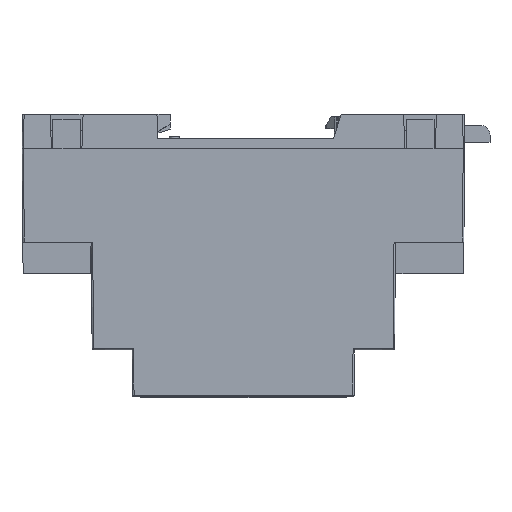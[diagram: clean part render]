
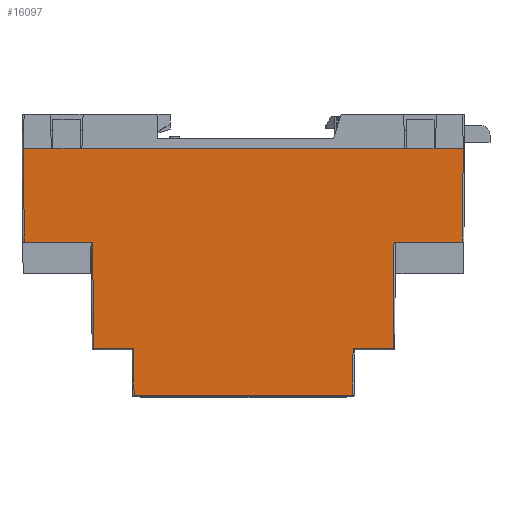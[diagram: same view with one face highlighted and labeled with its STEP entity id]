
A CAD part, front view. The second image highlights one B-rep face of the part: STEP entity #16097.
In plain terms, the highlighted planar face has unit normal (0, -1, -0.009) as drawn and (0, 1, -0.009) by its records, which use the part's own axes.
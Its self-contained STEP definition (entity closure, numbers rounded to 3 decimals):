
#16097=ADVANCED_FACE('',(#34640),#34642,.F.);
#34640=FACE_BOUND('',#34641,.T.);
#34641=EDGE_LOOP('',(#54096,#54097,#54098,#54099,#54100,#54101,#54102,#54103,#54104,
#54105,#54106,#54107,#54108,#54109,#54110,#54111));
#34642=PLANE('',#34643);
#34643=AXIS2_PLACEMENT_3D('',#34644,#34645,#34646);
#34644=CARTESIAN_POINT('',(-29595.512,-26736.9,-47.706));
#34645=DIRECTION('',(0.,-1.,0.009));
#34646=DIRECTION('',(0.,-0.009,-1.));
#54096=ORIENTED_EDGE('',*,*,#63273,.F.);
#54097=ORIENTED_EDGE('',*,*,#63274,.F.);
#54098=ORIENTED_EDGE('',*,*,#63275,.F.);
#54099=ORIENTED_EDGE('',*,*,#63276,.F.);
#54100=ORIENTED_EDGE('',*,*,#63277,.F.);
#54101=ORIENTED_EDGE('',*,*,#63278,.F.);
#54102=ORIENTED_EDGE('',*,*,#63279,.F.);
#54103=ORIENTED_EDGE('',*,*,#63280,.F.);
#54104=ORIENTED_EDGE('',*,*,#63281,.F.);
#54105=ORIENTED_EDGE('',*,*,#63282,.F.);
#54106=ORIENTED_EDGE('',*,*,#63283,.F.);
#54107=ORIENTED_EDGE('',*,*,#63284,.F.);
#54108=ORIENTED_EDGE('',*,*,#63285,.F.);
#54109=ORIENTED_EDGE('',*,*,#63286,.F.);
#54110=ORIENTED_EDGE('',*,*,#63287,.F.);
#54111=ORIENTED_EDGE('',*,*,#63288,.F.);
#63273=EDGE_CURVE('',#73462,#73463,#73464,.T.);
#63274=EDGE_CURVE('',#73465,#73462,#73466,.T.);
#63275=EDGE_CURVE('',#73467,#73465,#73468,.T.);
#63276=EDGE_CURVE('',#73469,#73467,#73470,.T.);
#63277=EDGE_CURVE('',#73471,#73469,#73472,.T.);
#63278=EDGE_CURVE('',#73473,#73471,#73474,.T.);
#63279=EDGE_CURVE('',#73475,#73473,#73476,.T.);
#63280=EDGE_CURVE('',#73477,#73475,#73478,.T.);
#63281=EDGE_CURVE('',#73479,#73477,#73480,.T.);
#63282=EDGE_CURVE('',#73481,#73479,#73482,.T.);
#63283=EDGE_CURVE('',#73483,#73481,#73484,.T.);
#63284=EDGE_CURVE('',#73485,#73483,#73486,.T.);
#63285=EDGE_CURVE('',#73487,#73485,#73488,.T.);
#63286=EDGE_CURVE('',#73489,#73487,#73490,.T.);
#63287=EDGE_CURVE('',#73491,#73489,#73492,.T.);
#63288=EDGE_CURVE('',#73463,#73491,#73493,.T.);
#73462=VERTEX_POINT('',#97251);
#73463=VERTEX_POINT('',#97252);
#73464=LINE('',#97253,#97254);
#73465=VERTEX_POINT('',#97256);
#73466=LINE('',#97257,#97258);
#73467=VERTEX_POINT('',#97260);
#73468=LINE('',#97261,#97262);
#73469=VERTEX_POINT('',#97264);
#73470=LINE('',#97265,#97266);
#73471=VERTEX_POINT('',#97268);
#73472=LINE('',#97269,#97270);
#73473=VERTEX_POINT('',#97272);
#73474=LINE('',#97273,#97274);
#73475=VERTEX_POINT('',#97276);
#73476=LINE('',#97277,#97278);
#73477=VERTEX_POINT('',#97280);
#73478=LINE('',#97281,#97282);
#73479=VERTEX_POINT('',#97284);
#73480=LINE('',#97285,#97286);
#73481=VERTEX_POINT('',#97288);
#73482=LINE('',#97289,#97290);
#73483=VERTEX_POINT('',#97292);
#73484=LINE('',#97293,#97294);
#73485=VERTEX_POINT('',#97296);
#73486=LINE('',#97297,#97298);
#73487=VERTEX_POINT('',#97300);
#73488=LINE('',#97301,#97302);
#73489=VERTEX_POINT('',#97304);
#73490=LINE('',#97305,#97306);
#73491=VERTEX_POINT('',#97308);
#73492=LINE('',#97309,#97310);
#73493=LINE('',#97312,#97313);
#97251=CARTESIAN_POINT('',(-29539.911,-26736.538,-6.237));
#97252=CARTESIAN_POINT('',(-29525.977,-26736.538,-6.237));
#97253=CARTESIAN_POINT('',(-29539.911,-26736.538,-6.237));
#97254=VECTOR('',#97255,1.);
#97255=DIRECTION('',(1.,0.,0.));
#97256=CARTESIAN_POINT('',(-29540.101,-26736.727,-27.94));
#97257=CARTESIAN_POINT('',(-29540.101,-26736.727,-27.94));
#97258=VECTOR('',#97259,1.);
#97259=DIRECTION('',(0.009,0.009,1.));
#97260=CARTESIAN_POINT('',(-29548.259,-26736.727,-27.94));
#97261=CARTESIAN_POINT('',(-29548.259,-26736.727,-27.94));
#97262=VECTOR('',#97263,1.);
#97263=DIRECTION('',(1.,0.,0.));
#97264=CARTESIAN_POINT('',(-29548.342,-26736.81,-37.44));
#97265=CARTESIAN_POINT('',(-29548.342,-26736.81,-37.44));
#97266=VECTOR('',#97267,1.);
#97267=DIRECTION('',(0.009,0.009,1.));
#97268=CARTESIAN_POINT('',(-29592.881,-26736.81,-37.44));
#97269=CARTESIAN_POINT('',(-29592.881,-26736.81,-37.44));
#97270=VECTOR('',#97271,1.);
#97271=DIRECTION('',(1.,0.,0.));
#97272=CARTESIAN_POINT('',(-29592.964,-26736.727,-27.94));
#97273=CARTESIAN_POINT('',(-29592.964,-26736.727,-27.94));
#97274=VECTOR('',#97275,1.);
#97275=DIRECTION('',(0.009,-0.009,-1.));
#97276=CARTESIAN_POINT('',(-29601.122,-26736.727,-27.94));
#97277=CARTESIAN_POINT('',(-29601.122,-26736.727,-27.94));
#97278=VECTOR('',#97279,1.);
#97279=DIRECTION('',(1.,0.,0.));
#97280=CARTESIAN_POINT('',(-29601.312,-26736.538,-6.237));
#97281=CARTESIAN_POINT('',(-29601.312,-26736.538,-6.237));
#97282=VECTOR('',#97283,1.);
#97283=DIRECTION('',(0.009,-0.009,-1.));
#97284=CARTESIAN_POINT('',(-29615.246,-26736.538,-6.237));
#97285=CARTESIAN_POINT('',(-29615.246,-26736.538,-6.237));
#97286=VECTOR('',#97287,1.);
#97287=DIRECTION('',(1.,0.,0.));
#97288=CARTESIAN_POINT('',(-29615.412,-26736.372,12.763));
#97289=CARTESIAN_POINT('',(-29615.412,-26736.372,12.763));
#97290=VECTOR('',#97291,1.);
#97291=DIRECTION('',(0.009,-0.009,-1.));
#97292=CARTESIAN_POINT('',(-29609.462,-26736.372,12.763));
#97293=CARTESIAN_POINT('',(-29609.462,-26736.372,12.763));
#97294=VECTOR('',#97295,1.);
#97295=DIRECTION('',(-1.,0.,0.));
#97296=CARTESIAN_POINT('',(-29603.762,-26736.372,12.763));
#97297=CARTESIAN_POINT('',(-29603.762,-26736.372,12.763));
#97298=VECTOR('',#97299,1.);
#97299=DIRECTION('',(-1.,0.,0.));
#97300=CARTESIAN_POINT('',(-29537.462,-26736.372,12.763));
#97301=CARTESIAN_POINT('',(-29537.462,-26736.372,12.763));
#97302=VECTOR('',#97303,1.);
#97303=DIRECTION('',(-1.,0.,0.));
#97304=CARTESIAN_POINT('',(-29531.762,-26736.372,12.763));
#97305=CARTESIAN_POINT('',(-29531.762,-26736.372,12.763));
#97306=VECTOR('',#97307,1.);
#97307=DIRECTION('',(-1.,0.,0.));
#97308=CARTESIAN_POINT('',(-29525.811,-26736.372,12.763));
#97309=CARTESIAN_POINT('',(-29525.811,-26736.372,12.763));
#97310=VECTOR('',#97311,1.);
#97311=DIRECTION('',(-1.,0.,0.));
#97312=CARTESIAN_POINT('',(-29525.977,-26736.538,-6.237));
#97313=VECTOR('',#97314,1.);
#97314=DIRECTION('',(0.009,0.009,1.));
